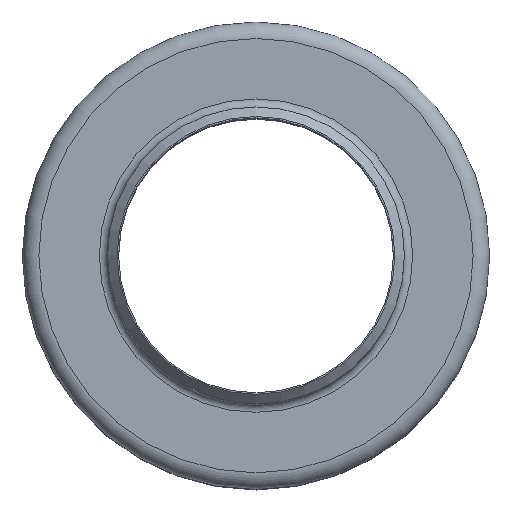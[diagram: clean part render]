
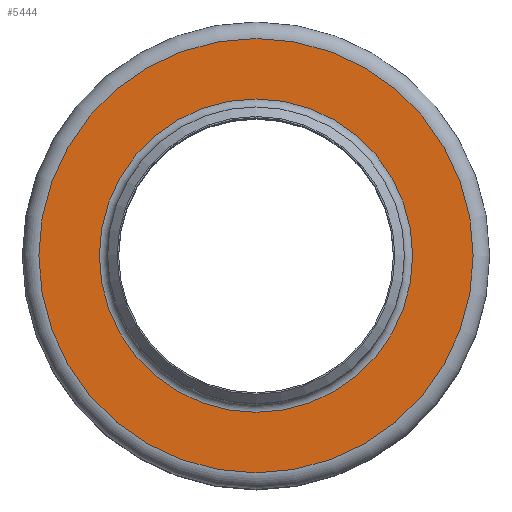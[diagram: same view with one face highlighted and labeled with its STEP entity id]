
A CAD part, top view. The second image highlights one B-rep face of the part: STEP entity #5444.
In plain terms, the highlighted planar face has unit normal (0, 0, 1).
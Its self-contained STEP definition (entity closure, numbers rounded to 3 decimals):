
#196=FACE_BOUND('',#995,.T.);
#407=PLANE('',#5855);
#661=FACE_OUTER_BOUND('',#994,.T.);
#994=EDGE_LOOP('',(#4537));
#995=EDGE_LOOP('',(#4538));
#1982=CIRCLE('',#5850,57.);
#1986=CIRCLE('',#5856,79.);
#2524=VERTEX_POINT('',#12041);
#2527=VERTEX_POINT('',#12052);
#3212=EDGE_CURVE('',#2524,#2524,#1982,.T.);
#3217=EDGE_CURVE('',#2527,#2527,#1986,.T.);
#4537=ORIENTED_EDGE('',*,*,#3217,.F.);
#4538=ORIENTED_EDGE('',*,*,#3212,.F.);
#5444=ADVANCED_FACE('',(#661,#196),#407,.F.);
#5850=AXIS2_PLACEMENT_3D('',#12043,#6968,#6969);
#5855=AXIS2_PLACEMENT_3D('',#12051,#6979,#6980);
#5856=AXIS2_PLACEMENT_3D('',#12053,#6981,#6982);
#6968=DIRECTION('center_axis',(0.,0.,1.));
#6969=DIRECTION('ref_axis',(0.,-1.,0.));
#6979=DIRECTION('center_axis',(0.,0.,-1.));
#6980=DIRECTION('ref_axis',(-1.,0.,0.));
#6981=DIRECTION('center_axis',(0.,0.,-1.));
#6982=DIRECTION('ref_axis',(1.,0.,0.));
#12041=CARTESIAN_POINT('',(57.,0.,76.));
#12043=CARTESIAN_POINT('Origin',(0.,0.,76.));
#12051=CARTESIAN_POINT('Origin',(0.,54.,76.));
#12052=CARTESIAN_POINT('',(79.,0.,76.));
#12053=CARTESIAN_POINT('Origin',(0.,0.,76.));
